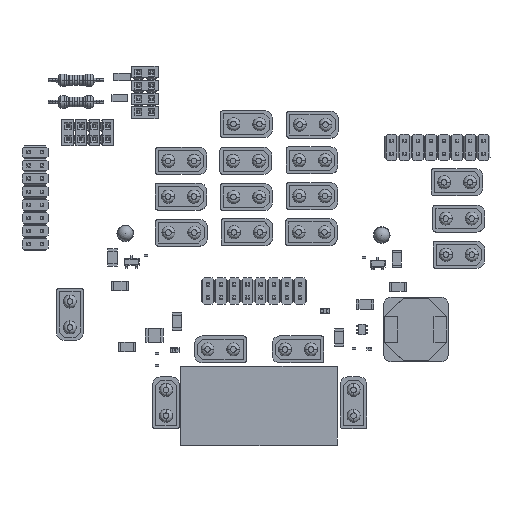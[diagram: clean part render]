
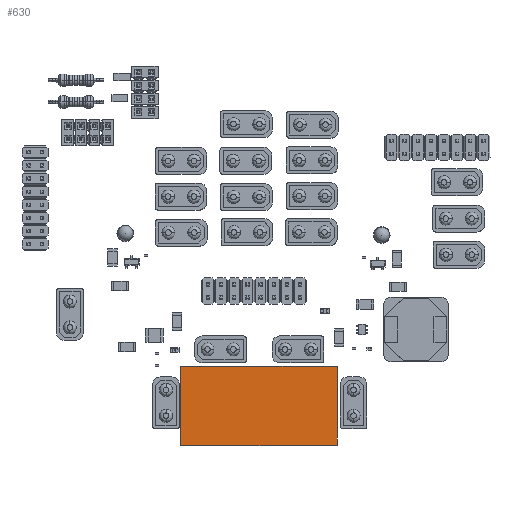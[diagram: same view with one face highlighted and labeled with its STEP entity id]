
A CAD part, top view. The second image highlights one B-rep face of the part: STEP entity #630.
In plain terms, the highlighted planar face has unit normal (0, 0, 1).
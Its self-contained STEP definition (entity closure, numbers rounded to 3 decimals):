
#239 = VERTEX_POINT('',#240);
#240 = CARTESIAN_POINT('',(48.882,53.391,1.646));
#247 = PLANE('',#248);
#248 = AXIS2_PLACEMENT_3D('',#249,#250,#251);
#249 = CARTESIAN_POINT('',(48.882,53.391,0.));
#250 = DIRECTION('',(0.,1.,0.));
#251 = DIRECTION('',(1.,0.,0.));
#259 = PLANE('',#260);
#260 = AXIS2_PLACEMENT_3D('',#261,#262,#263);
#261 = CARTESIAN_POINT('',(48.882,68.8,0.));
#262 = DIRECTION('',(1.,0.,0.));
#263 = DIRECTION('',(0.,-1.,0.));
#271 = EDGE_CURVE('',#239,#272,#274,.T.);
#272 = VERTEX_POINT('',#273);
#273 = CARTESIAN_POINT('',(79.118,53.391,1.646));
#274 = SURFACE_CURVE('',#275,(#279,#286),.PCURVE_S1.);
#275 = LINE('',#276,#277);
#276 = CARTESIAN_POINT('',(48.882,53.391,1.646));
#277 = VECTOR('',#278,1.);
#278 = DIRECTION('',(1.,0.,0.));
#279 = PCURVE('',#247,#280);
#280 = DEFINITIONAL_REPRESENTATION('',(#281),#285);
#281 = LINE('',#282,#283);
#282 = CARTESIAN_POINT('',(0.,-1.646));
#283 = VECTOR('',#284,1.);
#284 = DIRECTION('',(1.,0.));
#285 = ( GEOMETRIC_REPRESENTATION_CONTEXT(2) 
PARAMETRIC_REPRESENTATION_CONTEXT() REPRESENTATION_CONTEXT('2D SPACE',''
  ) );
#286 = PCURVE('',#287,#292);
#287 = PLANE('',#288);
#288 = AXIS2_PLACEMENT_3D('',#289,#290,#291);
#289 = CARTESIAN_POINT('',(48.882,53.391,1.646));
#290 = DIRECTION('',(0.,0.,-1.));
#291 = DIRECTION('',(-1.,0.,0.));
#292 = DEFINITIONAL_REPRESENTATION('',(#293),#297);
#293 = LINE('',#294,#295);
#294 = CARTESIAN_POINT('',(0.,0.));
#295 = VECTOR('',#296,1.);
#296 = DIRECTION('',(-1.,0.));
#297 = ( GEOMETRIC_REPRESENTATION_CONTEXT(2) 
PARAMETRIC_REPRESENTATION_CONTEXT() REPRESENTATION_CONTEXT('2D SPACE',''
  ) );
#315 = PLANE('',#316);
#316 = AXIS2_PLACEMENT_3D('',#317,#318,#319);
#317 = CARTESIAN_POINT('',(79.118,53.391,0.));
#318 = DIRECTION('',(-1.,-0.012,0.));
#319 = DIRECTION('',(-0.012,1.,0.));
#357 = EDGE_CURVE('',#272,#358,#360,.T.);
#358 = VERTEX_POINT('',#359);
#359 = CARTESIAN_POINT('',(79.1,54.937,1.646));
#360 = SURFACE_CURVE('',#361,(#365,#372),.PCURVE_S1.);
#361 = LINE('',#362,#363);
#362 = CARTESIAN_POINT('',(79.118,53.391,1.646));
#363 = VECTOR('',#364,1.);
#364 = DIRECTION('',(-0.012,1.,0.));
#365 = PCURVE('',#315,#366);
#366 = DEFINITIONAL_REPRESENTATION('',(#367),#371);
#367 = LINE('',#368,#369);
#368 = CARTESIAN_POINT('',(0.,-1.646));
#369 = VECTOR('',#370,1.);
#370 = DIRECTION('',(1.,0.));
#371 = ( GEOMETRIC_REPRESENTATION_CONTEXT(2) 
PARAMETRIC_REPRESENTATION_CONTEXT() REPRESENTATION_CONTEXT('2D SPACE',''
  ) );
#372 = PCURVE('',#287,#373);
#373 = DEFINITIONAL_REPRESENTATION('',(#374),#378);
#374 = LINE('',#375,#376);
#375 = CARTESIAN_POINT('',(-30.236,0.));
#376 = VECTOR('',#377,1.);
#377 = DIRECTION('',(0.012,1.));
#378 = ( GEOMETRIC_REPRESENTATION_CONTEXT(2) 
PARAMETRIC_REPRESENTATION_CONTEXT() REPRESENTATION_CONTEXT('2D SPACE',''
  ) );
#396 = PLANE('',#397);
#397 = AXIS2_PLACEMENT_3D('',#398,#399,#400);
#398 = CARTESIAN_POINT('',(79.1,54.937,0.));
#399 = DIRECTION('',(-1.,0.,0.));
#400 = DIRECTION('',(0.,1.,0.));
#433 = EDGE_CURVE('',#358,#434,#436,.T.);
#434 = VERTEX_POINT('',#435);
#435 = CARTESIAN_POINT('',(79.1,68.8,1.646));
#436 = SURFACE_CURVE('',#437,(#441,#448),.PCURVE_S1.);
#437 = LINE('',#438,#439);
#438 = CARTESIAN_POINT('',(79.1,54.937,1.646));
#439 = VECTOR('',#440,1.);
#440 = DIRECTION('',(0.,1.,0.));
#441 = PCURVE('',#396,#442);
#442 = DEFINITIONAL_REPRESENTATION('',(#443),#447);
#443 = LINE('',#444,#445);
#444 = CARTESIAN_POINT('',(0.,-1.646));
#445 = VECTOR('',#446,1.);
#446 = DIRECTION('',(1.,0.));
#447 = ( GEOMETRIC_REPRESENTATION_CONTEXT(2) 
PARAMETRIC_REPRESENTATION_CONTEXT() REPRESENTATION_CONTEXT('2D SPACE',''
  ) );
#448 = PCURVE('',#287,#449);
#449 = DEFINITIONAL_REPRESENTATION('',(#450),#454);
#450 = LINE('',#451,#452);
#451 = CARTESIAN_POINT('',(-30.218,1.546));
#452 = VECTOR('',#453,1.);
#453 = DIRECTION('',(0.,1.));
#454 = ( GEOMETRIC_REPRESENTATION_CONTEXT(2) 
PARAMETRIC_REPRESENTATION_CONTEXT() REPRESENTATION_CONTEXT('2D SPACE',''
  ) );
#472 = PLANE('',#473);
#473 = AXIS2_PLACEMENT_3D('',#474,#475,#476);
#474 = CARTESIAN_POINT('',(79.1,68.8,0.));
#475 = DIRECTION('',(0.,-1.,0.));
#476 = DIRECTION('',(-1.,0.,0.));
#509 = EDGE_CURVE('',#434,#510,#512,.T.);
#510 = VERTEX_POINT('',#511);
#511 = CARTESIAN_POINT('',(48.882,68.8,1.646));
#512 = SURFACE_CURVE('',#513,(#517,#524),.PCURVE_S1.);
#513 = LINE('',#514,#515);
#514 = CARTESIAN_POINT('',(79.1,68.8,1.646));
#515 = VECTOR('',#516,1.);
#516 = DIRECTION('',(-1.,0.,0.));
#517 = PCURVE('',#472,#518);
#518 = DEFINITIONAL_REPRESENTATION('',(#519),#523);
#519 = LINE('',#520,#521);
#520 = CARTESIAN_POINT('',(0.,-1.646));
#521 = VECTOR('',#522,1.);
#522 = DIRECTION('',(1.,0.));
#523 = ( GEOMETRIC_REPRESENTATION_CONTEXT(2) 
PARAMETRIC_REPRESENTATION_CONTEXT() REPRESENTATION_CONTEXT('2D SPACE',''
  ) );
#524 = PCURVE('',#287,#525);
#525 = DEFINITIONAL_REPRESENTATION('',(#526),#530);
#526 = LINE('',#527,#528);
#527 = CARTESIAN_POINT('',(-30.218,15.409));
#528 = VECTOR('',#529,1.);
#529 = DIRECTION('',(1.,0.));
#530 = ( GEOMETRIC_REPRESENTATION_CONTEXT(2) 
PARAMETRIC_REPRESENTATION_CONTEXT() REPRESENTATION_CONTEXT('2D SPACE',''
  ) );
#580 = EDGE_CURVE('',#510,#239,#581,.T.);
#581 = SURFACE_CURVE('',#582,(#586,#593),.PCURVE_S1.);
#582 = LINE('',#583,#584);
#583 = CARTESIAN_POINT('',(48.882,68.8,1.646));
#584 = VECTOR('',#585,1.);
#585 = DIRECTION('',(0.,-1.,0.));
#586 = PCURVE('',#259,#587);
#587 = DEFINITIONAL_REPRESENTATION('',(#588),#592);
#588 = LINE('',#589,#590);
#589 = CARTESIAN_POINT('',(0.,-1.646));
#590 = VECTOR('',#591,1.);
#591 = DIRECTION('',(1.,0.));
#592 = ( GEOMETRIC_REPRESENTATION_CONTEXT(2) 
PARAMETRIC_REPRESENTATION_CONTEXT() REPRESENTATION_CONTEXT('2D SPACE',''
  ) );
#593 = PCURVE('',#287,#594);
#594 = DEFINITIONAL_REPRESENTATION('',(#595),#599);
#595 = LINE('',#596,#597);
#596 = CARTESIAN_POINT('',(0.,15.409));
#597 = VECTOR('',#598,1.);
#598 = DIRECTION('',(0.,-1.));
#599 = ( GEOMETRIC_REPRESENTATION_CONTEXT(2) 
PARAMETRIC_REPRESENTATION_CONTEXT() REPRESENTATION_CONTEXT('2D SPACE',''
  ) );
#630 = ADVANCED_FACE('',(#631),#287,.F.);
#631 = FACE_BOUND('',#632,.T.);
#632 = EDGE_LOOP('',(#633,#634,#635,#636,#637));
#633 = ORIENTED_EDGE('',*,*,#271,.T.);
#634 = ORIENTED_EDGE('',*,*,#357,.T.);
#635 = ORIENTED_EDGE('',*,*,#433,.T.);
#636 = ORIENTED_EDGE('',*,*,#509,.T.);
#637 = ORIENTED_EDGE('',*,*,#580,.T.);
